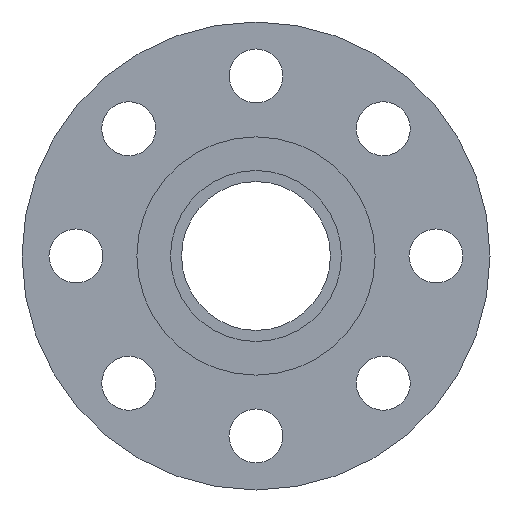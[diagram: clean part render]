
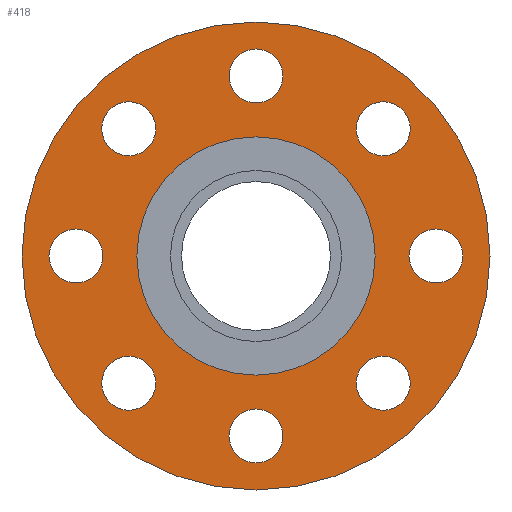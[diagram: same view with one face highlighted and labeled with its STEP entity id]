
A CAD part, left-side view. The second image highlights one B-rep face of the part: STEP entity #418.
In plain terms, the highlighted planar face has unit normal (-1, 0, 0).
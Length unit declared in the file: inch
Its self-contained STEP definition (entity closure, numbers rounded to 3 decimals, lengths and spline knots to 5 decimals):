
#14=FACE_BOUND('',#72,.T.);
#15=FACE_BOUND('',#73,.T.);
#16=FACE_BOUND('',#74,.T.);
#17=FACE_BOUND('',#75,.T.);
#18=FACE_BOUND('',#76,.T.);
#19=FACE_BOUND('',#77,.T.);
#20=FACE_BOUND('',#78,.T.);
#21=FACE_BOUND('',#79,.T.);
#22=FACE_BOUND('',#80,.T.);
#36=PLANE('',#478);
#51=FACE_OUTER_BOUND('',#71,.T.);
#71=EDGE_LOOP('',(#304,#305));
#72=EDGE_LOOP('',(#306));
#73=EDGE_LOOP('',(#307));
#74=EDGE_LOOP('',(#308));
#75=EDGE_LOOP('',(#309));
#76=EDGE_LOOP('',(#310));
#77=EDGE_LOOP('',(#311));
#78=EDGE_LOOP('',(#312));
#79=EDGE_LOOP('',(#313));
#80=EDGE_LOOP('',(#314,#315));
#133=CIRCLE('',#451,0.375);
#135=CIRCLE('',#454,0.375);
#137=CIRCLE('',#457,0.375);
#139=CIRCLE('',#460,0.375);
#141=CIRCLE('',#463,0.375);
#143=CIRCLE('',#466,0.375);
#145=CIRCLE('',#469,0.375);
#147=CIRCLE('',#472,0.375);
#148=CIRCLE('',#474,3.25);
#149=CIRCLE('',#475,3.25);
#152=CIRCLE('',#479,1.655);
#153=CIRCLE('',#480,1.655);
#173=VERTEX_POINT('',#649);
#175=VERTEX_POINT('',#655);
#177=VERTEX_POINT('',#661);
#179=VERTEX_POINT('',#667);
#181=VERTEX_POINT('',#673);
#183=VERTEX_POINT('',#679);
#185=VERTEX_POINT('',#685);
#187=VERTEX_POINT('',#691);
#188=VERTEX_POINT('',#695);
#189=VERTEX_POINT('',#696);
#192=VERTEX_POINT('',#705);
#193=VERTEX_POINT('',#706);
#214=EDGE_CURVE('',#173,#173,#133,.T.);
#217=EDGE_CURVE('',#175,#175,#135,.T.);
#220=EDGE_CURVE('',#177,#177,#137,.T.);
#223=EDGE_CURVE('',#179,#179,#139,.T.);
#226=EDGE_CURVE('',#181,#181,#141,.T.);
#229=EDGE_CURVE('',#183,#183,#143,.T.);
#232=EDGE_CURVE('',#185,#185,#145,.T.);
#235=EDGE_CURVE('',#187,#187,#147,.T.);
#236=EDGE_CURVE('',#188,#189,#148,.T.);
#237=EDGE_CURVE('',#189,#188,#149,.T.);
#241=EDGE_CURVE('',#192,#193,#152,.T.);
#242=EDGE_CURVE('',#193,#192,#153,.T.);
#304=ORIENTED_EDGE('',*,*,#236,.T.);
#305=ORIENTED_EDGE('',*,*,#237,.T.);
#306=ORIENTED_EDGE('',*,*,#214,.T.);
#307=ORIENTED_EDGE('',*,*,#217,.T.);
#308=ORIENTED_EDGE('',*,*,#220,.T.);
#309=ORIENTED_EDGE('',*,*,#223,.T.);
#310=ORIENTED_EDGE('',*,*,#226,.T.);
#311=ORIENTED_EDGE('',*,*,#229,.T.);
#312=ORIENTED_EDGE('',*,*,#232,.T.);
#313=ORIENTED_EDGE('',*,*,#235,.T.);
#314=ORIENTED_EDGE('',*,*,#241,.F.);
#315=ORIENTED_EDGE('',*,*,#242,.F.);
#418=ADVANCED_FACE('',(#51,#14,#15,#16,#17,#18,#19,#20,#21,#22),#36,.T.);
#451=AXIS2_PLACEMENT_3D('',#651,#516,#517);
#454=AXIS2_PLACEMENT_3D('',#657,#523,#524);
#457=AXIS2_PLACEMENT_3D('',#663,#530,#531);
#460=AXIS2_PLACEMENT_3D('',#669,#537,#538);
#463=AXIS2_PLACEMENT_3D('',#675,#544,#545);
#466=AXIS2_PLACEMENT_3D('',#681,#551,#552);
#469=AXIS2_PLACEMENT_3D('',#687,#558,#559);
#472=AXIS2_PLACEMENT_3D('',#693,#565,#566);
#474=AXIS2_PLACEMENT_3D('',#697,#569,#570);
#475=AXIS2_PLACEMENT_3D('',#698,#571,#572);
#478=AXIS2_PLACEMENT_3D('',#704,#578,#579);
#479=AXIS2_PLACEMENT_3D('',#707,#580,#581);
#480=AXIS2_PLACEMENT_3D('',#708,#582,#583);
#516=DIRECTION('center_axis',(1.,0.,0.));
#517=DIRECTION('ref_axis',(0.,-0.707,0.707));
#523=DIRECTION('center_axis',(1.,0.,0.));
#524=DIRECTION('ref_axis',(0.,-1.,0.));
#530=DIRECTION('center_axis',(1.,0.,0.));
#531=DIRECTION('ref_axis',(0.,-0.707,-0.707));
#537=DIRECTION('center_axis',(1.,0.,0.));
#538=DIRECTION('ref_axis',(0.,0.,-1.));
#544=DIRECTION('center_axis',(1.,0.,0.));
#545=DIRECTION('ref_axis',(0.,0.707,-0.707));
#551=DIRECTION('center_axis',(1.,0.,0.));
#552=DIRECTION('ref_axis',(0.,1.,0.));
#558=DIRECTION('center_axis',(1.,0.,0.));
#559=DIRECTION('ref_axis',(0.,0.707,0.707));
#565=DIRECTION('center_axis',(1.,0.,0.));
#566=DIRECTION('ref_axis',(0.,0.,1.));
#569=DIRECTION('center_axis',(-1.,0.,0.));
#570=DIRECTION('ref_axis',(0.,0.,1.));
#571=DIRECTION('center_axis',(-1.,0.,0.));
#572=DIRECTION('ref_axis',(0.,0.,1.));
#578=DIRECTION('center_axis',(-1.,0.,0.));
#579=DIRECTION('ref_axis',(0.,0.,1.));
#580=DIRECTION('center_axis',(-1.,0.,0.));
#581=DIRECTION('ref_axis',(0.,0.,1.));
#582=DIRECTION('center_axis',(-1.,0.,0.));
#583=DIRECTION('ref_axis',(0.,0.,1.));
#649=CARTESIAN_POINT('',(-0.88,2.03293,-2.03293));
#651=CARTESIAN_POINT('Origin',(-0.88,1.76777,-1.76777));
#655=CARTESIAN_POINT('',(-0.88,2.875,0.));
#657=CARTESIAN_POINT('Origin',(-0.88,2.5,0.));
#661=CARTESIAN_POINT('',(-0.88,2.03293,2.03293));
#663=CARTESIAN_POINT('Origin',(-0.88,1.76777,1.76777));
#667=CARTESIAN_POINT('',(-0.88,0.,2.875));
#669=CARTESIAN_POINT('Origin',(-0.88,0.,2.5));
#673=CARTESIAN_POINT('',(-0.88,-2.03293,2.03293));
#675=CARTESIAN_POINT('Origin',(-0.88,-1.76777,1.76777));
#679=CARTESIAN_POINT('',(-0.88,-2.875,0.));
#681=CARTESIAN_POINT('Origin',(-0.88,-2.5,0.));
#685=CARTESIAN_POINT('',(-0.88,-2.03293,-2.03293));
#687=CARTESIAN_POINT('Origin',(-0.88,-1.76777,-1.76777));
#691=CARTESIAN_POINT('',(-0.88,0.,-2.875));
#693=CARTESIAN_POINT('Origin',(-0.88,0.,-2.5));
#695=CARTESIAN_POINT('',(-0.88,0.,3.25));
#696=CARTESIAN_POINT('',(-0.88,0.,-3.25));
#697=CARTESIAN_POINT('Origin',(-0.88,0.,0.));
#698=CARTESIAN_POINT('Origin',(-0.88,0.,0.));
#704=CARTESIAN_POINT('Origin',(-0.88,0.,2.4525));
#705=CARTESIAN_POINT('',(-0.88,0.,1.655));
#706=CARTESIAN_POINT('',(-0.88,0.,-1.655));
#707=CARTESIAN_POINT('Origin',(-0.88,0.,0.));
#708=CARTESIAN_POINT('Origin',(-0.88,0.,0.));
